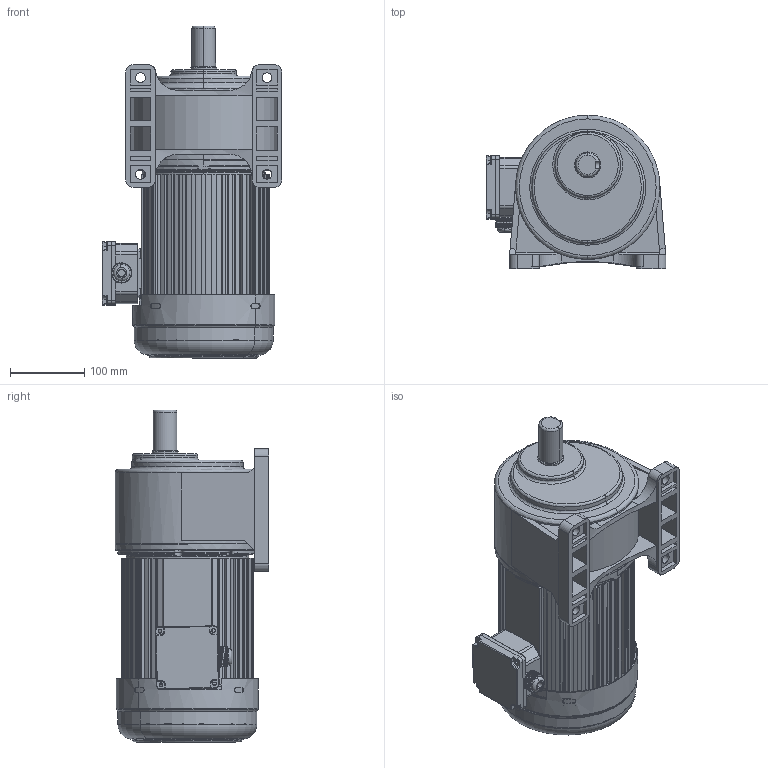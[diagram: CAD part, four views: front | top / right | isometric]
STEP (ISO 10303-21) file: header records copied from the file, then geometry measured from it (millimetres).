
FILE_DESCRIPTION (( 'STEP AP203' ), '1' );
FILE_NAME ('1500W饜4#拏宒.STEP', '2020-04-13T11:17:03', ( 'china' ), ( 'china' ), 'SwSTEP 2.0', 'SolidWorks 2019', '' );
FILE_SCHEMA (( 'CONFIG_CONTROL_DESIGN' ));
Length unit declared in the file: millimetre
Products named in the file (9): 蜊輛綴諉盄碟釱3; 4#拏宒眊极; 諉芛; 1500W饜4#拏宒; 蜊輛綴諉盄碟裔3; 4-xg3-0926; 1500W儂褲; 1500W綴傷裔; 瑞欶
Assembly tree (8 placements, depth 2):
  1500W饜4#拏宒
    1500W儂褲
    1500W綴傷裔
    瑞欶
    蜊輛綴諉盄碟釱3
    諉芛
    蜊輛綴諉盄碟裔3
    4-xg3-0926
    4#拏宒眊极
Bounding box: 241.51 x 206.5 x 446.45 mm (x, y, z)
Volume: 4497370.9 mm3; surface area: 927893.1 mm2
Topology: 7 solids, 8 shells, 3876 faces, 10087 edges, 6187 vertices
Faces by surface type: plane 1371, cylinder 1077, bspline 673, torus 408, cone 297, sphere 50
Entity records: 242069 total; most frequent: CARTESIAN_POINT 152202, ORIENTED_EDGE 19907, DIRECTION 16515, EDGE_CURVE 9955, VERTEX_POINT 6187, AXIS2_PLACEMENT_3D 5982, LINE 4551, VECTOR 4551
